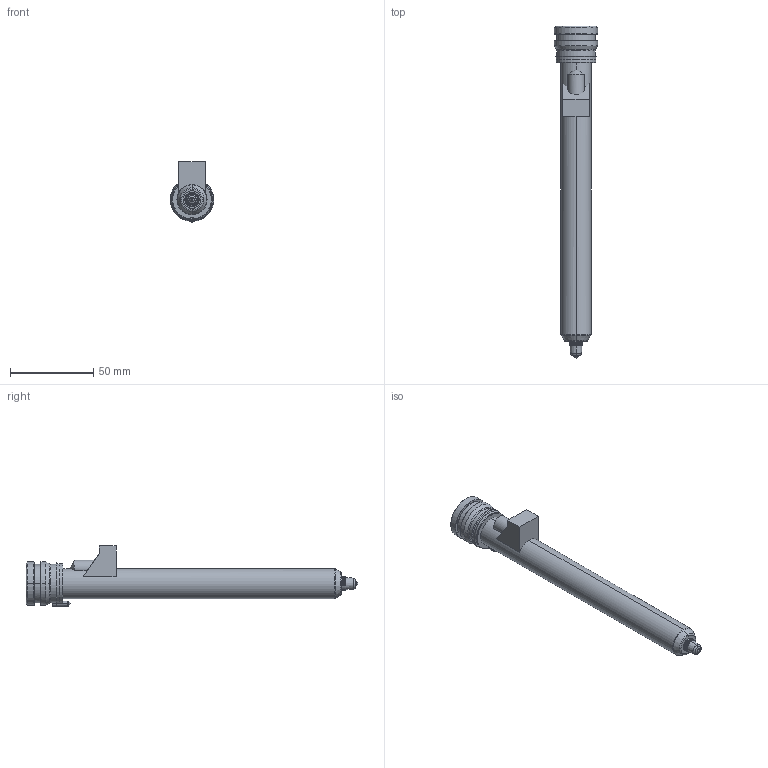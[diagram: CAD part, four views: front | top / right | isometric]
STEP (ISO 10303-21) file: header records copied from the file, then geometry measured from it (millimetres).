
FILE_DESCRIPTION((''),'2;1');
FILE_NAME('TH18181-M-1B50-PK-JG','2023-12-14T',('umhib'),('Thermoplay S.p.A.'),'PRO/ENGINEER BY PARAMETRIC TECHNOLOGY CORPORATION, 2017170','PRO/ENGINEER BY PARAMETRIC TECHNOLOGY CORPORATION, 2017170','');
FILE_SCHEMA(('CONFIG_CONTROL_DESIGN'));
Length unit declared in the file: millimetre
Products named in the file (1): TH18181-M-1B50-PK-JG
Bounding box: 26 x 199 x 36.1 mm (x, y, z)
Volume: 38766.2 mm3; surface area: 29261.8 mm2
Topology: 1 solids, 2 shells, 389 faces, 993 edges, 609 vertices
Faces by surface type: cylinder 149, plane 87, cone 62, torus 56, bspline 22, sphere 11, extrusion 2
Entity records: 16881 total; most frequent: CARTESIAN_POINT 5238, DIRECTION 1992, ORIENTED_EDGE 1960, EDGE_CURVE 982, AXIS2_PLACEMENT_3D 802, VERTEX_POINT 609, CIRCLE 436, EDGE_LOOP 412
